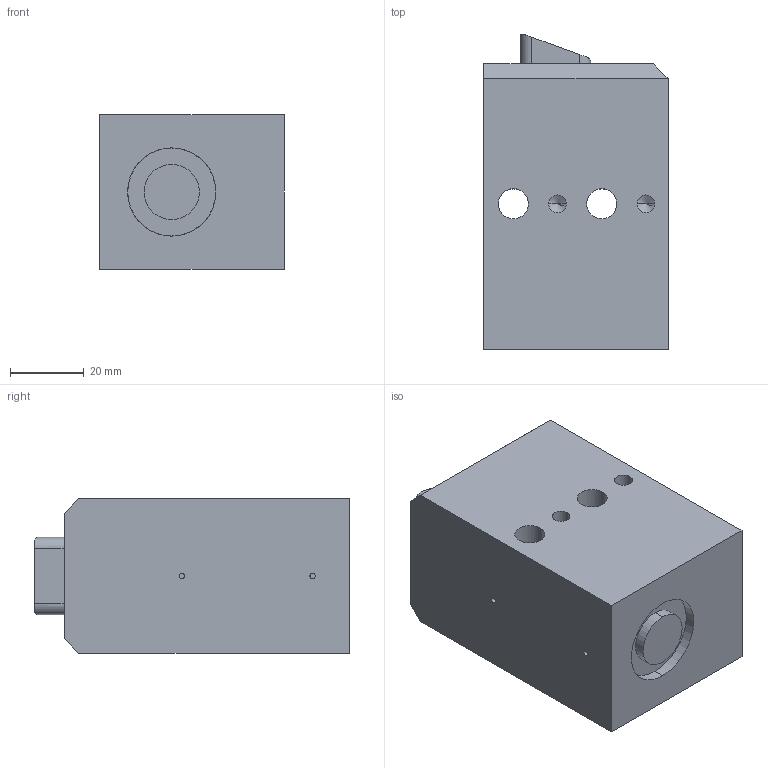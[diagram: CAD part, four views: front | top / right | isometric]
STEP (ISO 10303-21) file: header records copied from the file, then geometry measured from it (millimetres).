
FILE_DESCRIPTION (( 'STEP AP203' ), '1' );
FILE_NAME ('ASRP.STEP', '2015-06-17T08:02:25', ( '' ), ( '' ), 'SwSTEP 2.0', 'SolidWorks 2015', '' );
FILE_SCHEMA (( 'CONFIG_CONTROL_DESIGN' ));
Length unit declared in the file: millimetre
Products named in the file (1): ASRP
Bounding box: 50 x 85.5 x 42 mm (x, y, z)
Volume: 157617 mm3; surface area: 22508.9 mm2
Topology: 1 solids, 1 shells, 60 faces, 149 edges, 89 vertices
Faces by surface type: cylinder 30, plane 20, cone 10
Entity records: 1832 total; most frequent: CARTESIAN_POINT 341, DIRECTION 309, ORIENTED_EDGE 278, EDGE_CURVE 139, AXIS2_PLACEMENT_3D 117, VERTEX_POINT 89, VECTOR 75, LINE 75
